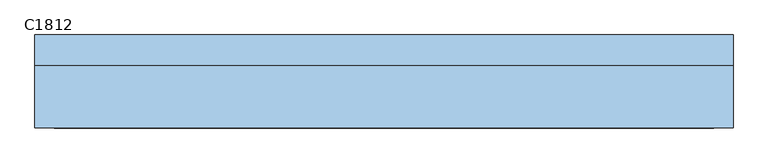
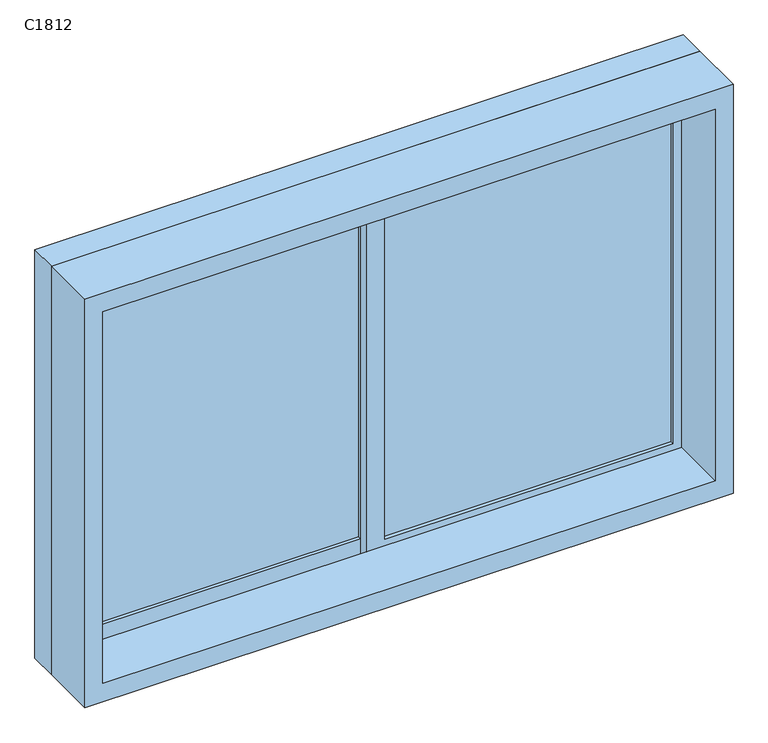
"""IFC4 building model written with IfcOpenShell, lengths in millimetres: window geometry, 推拉窗6 : C1812."""

from ifc_helpers import new_model, si_unit, frame, origin, place, context, project, spatial, polyline, outline, extrude, source, transform, mapped, element, save


def c1812_6df05ca2(model_context):
    return source(origin(), model_context, "Body", "SweptSolid", [
        extrude(outline(polyline([(-815.475, 23.1265625), (-15.475, 23.1265625), (-15.475, 13.1265625), (-815.475, 13.1265625), (-815.475, 23.1265625)])), frame((0.0, 0.0, 675.0), z_axis=(0.0, 0.0, 1.0), x_axis=(1.0, 0.0, 0.0)), (0.0, 0.0, 1.0), 1050.0),
        extrude(outline(polyline([(34.525, -6.8734375), (834.525, -6.8734375), (834.525, -16.8734375), (34.525, -16.8734375), (34.525, -6.8734375)])), frame((0.0, 0.0, 675.0), z_axis=(0.0, 0.0, 1.0), x_axis=(1.0, 0.0, 0.0)), (0.0, 0.0, 1.0), 1050.0),
        extrude(outline(polyline([(1800.0, -890.475), (600.0, -890.475), (600.0, 909.525), (1800.0, 909.525), (1800.0, -890.475)]), holes=[polyline([(1745.0, 859.525), (655.0, 859.525), (655.0, -840.475), (1745.0, -840.475), (1745.0, 859.525)])]), frame((0.0, -186.8734375, 0.0), z_axis=(0.0, 1.0, 0.0), x_axis=(0.0, 0.0, 1.0)), (0.0, 0.0, 1.0), 160.0),
        extrude(outline(polyline([(625.0, 34.525), (1775.0, 34.525), (1775.0, -865.475), (625.0, -865.475), (625.0, 34.525)]), holes=[polyline([(675.0, -15.475), (675.0, -815.475), (1725.0, -815.475), (1725.0, -15.475), (675.0, -15.475)])]), frame((0.0, 3.1265625, 0.0), z_axis=(0.0, 1.0, 0.0), x_axis=(0.0, 0.0, 1.0)), (0.0, 0.0, 1.0), 30.0),
        extrude(outline(polyline([(1775.0, -15.475), (625.0, -15.475), (625.0, 884.525), (1775.0, 884.525), (1775.0, -15.475)]), holes=[polyline([(1725.0, 34.525), (1725.0, 834.525), (675.0, 834.525), (675.0, 34.525), (1725.0, 34.525)])]), frame((0.0, -26.8734375, 0.0), z_axis=(0.0, 1.0, 0.0), x_axis=(0.0, 0.0, 1.0)), (0.0, 0.0, 1.0), 30.0),
        extrude(outline(polyline([(1800.0, -890.475), (600.0, -890.475), (600.0, 909.525), (1800.0, 909.525), (1800.0, -890.475)]), holes=[polyline([(625.0, -865.475), (1775.0, -865.475), (1775.0, 884.525), (625.0, 884.525), (625.0, -865.475)])]), frame((0.0, -26.8734375, 0.0), z_axis=(0.0, 1.0, 0.0), x_axis=(0.0, 0.0, 1.0)), (0.0, 0.0, 1.0), 80.0),
    ])


if __name__ == "__main__":
    model = new_model("IFC4")
    model_context = context("Model", 3, world=origin())
    ifc_project = project(units=[si_unit("LENGTHUNIT", "METRE", prefix="MILLI")], contexts=[model_context])
    site = spatial("IfcSite", under=ifc_project)
    building = spatial("IfcBuilding", under=site)
    placement = place(None, origin())
    c1812_shape = c1812_6df05ca2(model_context)
    element("IfcWindow", 1, ObjectType="推拉窗6 : C1812", at=placement, inside=building, context=model_context, shape_type="MappedRepresentation", body=[
        mapped(c1812_shape, transform((0.0, 0.0, 0.0), x_axis=(1.0, 0.0, 0.0), y_axis=(0.0, 1.0, 0.0), z_axis=(0.0, 0.0, 1.0))),
    ])
    save(model, "model.ifc")
